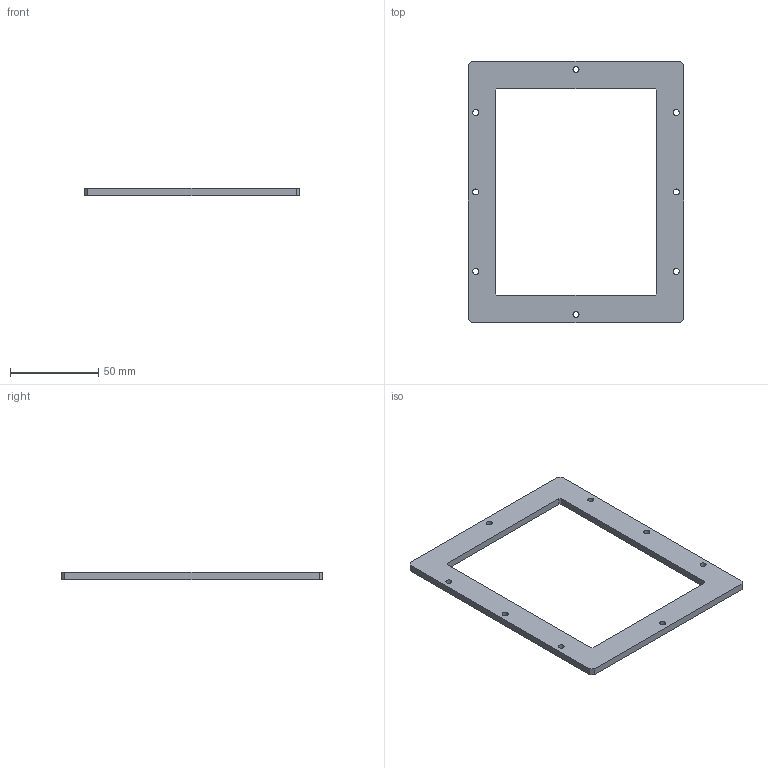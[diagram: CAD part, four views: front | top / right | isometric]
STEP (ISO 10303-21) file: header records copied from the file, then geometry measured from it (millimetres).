
FILE_DESCRIPTION (( 'STEP AP203' ), '1' );
FILE_NAME ('11_film_upper_ring.step', '2026-10-22T14:08:22', ( '' ), ( '' ), 'SwSTEP 2.0', 'SolidWorks 2025', '' );
FILE_SCHEMA (( 'CONFIG_CONTROL_DESIGN' ));
Length unit declared in the file: millimetre
Products named in the file (1): 11_film_upper_ring
Bounding box: 122 x 148 x 4 mm (x, y, z)
Volume: 29040.7 mm3; surface area: 18662.8 mm2
Topology: 1 solids, 1 shells, 34 faces, 96 edges, 64 vertices
Faces by surface type: plane 18, cylinder 16
Entity records: 1225 total; most frequent: DIRECTION 198, CARTESIAN_POINT 195, ORIENTED_EDGE 192, EDGE_CURVE 96, AXIS2_PLACEMENT_3D 67, VERTEX_POINT 64, VECTOR 64, LINE 64
